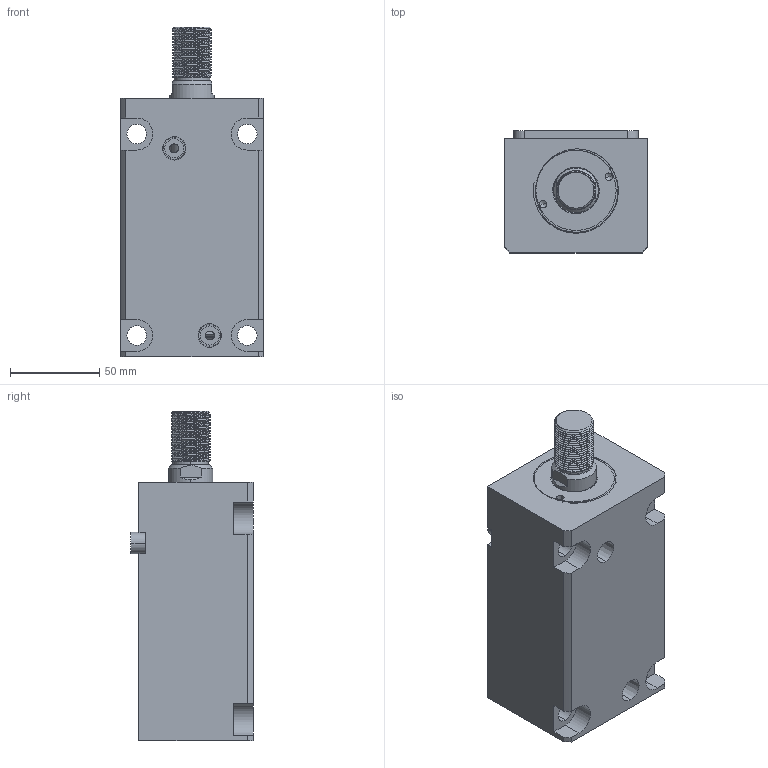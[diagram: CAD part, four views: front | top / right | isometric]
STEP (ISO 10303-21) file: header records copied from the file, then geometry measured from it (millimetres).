
FILE_DESCRIPTION (( 'STEP AP214' ), '1' );
FILE_NAME ('chtb-la40x90w_asm.STEP', '2018-06-02T08:37:01', ( 'Windows' ), ( 'Microsoft' ), 'SwSTEP 2.0', 'SolidWorks 2015', '' );
FILE_SCHEMA (( 'AUTOMOTIVE_DESIGN' ));
Length unit declared in the file: millimetre
Products named in the file (5): CHTB-SD40QG; CHTB-LA40PJ; CHTB-SD40X90WHSG; CHTB-LA40X90NBT; chtb-la40x90w_asm
Assembly tree (4 placements, depth 2):
  chtb-la40x90w_asm
    CHTB-LA40X90NBT
    CHTB-SD40X90WHSG
    CHTB-LA40PJ
    CHTB-SD40QG
Bounding box: 80 x 68.5 x 185 mm (x, y, z)
Volume: 650423 mm3; surface area: 111823.5 mm2
Topology: 4 solids, 5 shells, 205 faces, 559 edges, 373 vertices
Faces by surface type: cylinder 111, plane 52, bspline 16, cone 14, torus 12
Entity records: 13775 total; most frequent: CARTESIAN_POINT 8706, ORIENTED_EDGE 1106, DIRECTION 926, EDGE_CURVE 553, VERTEX_POINT 373, AXIS2_PLACEMENT_3D 363, EDGE_LOOP 234, ADVANCED_FACE 205
